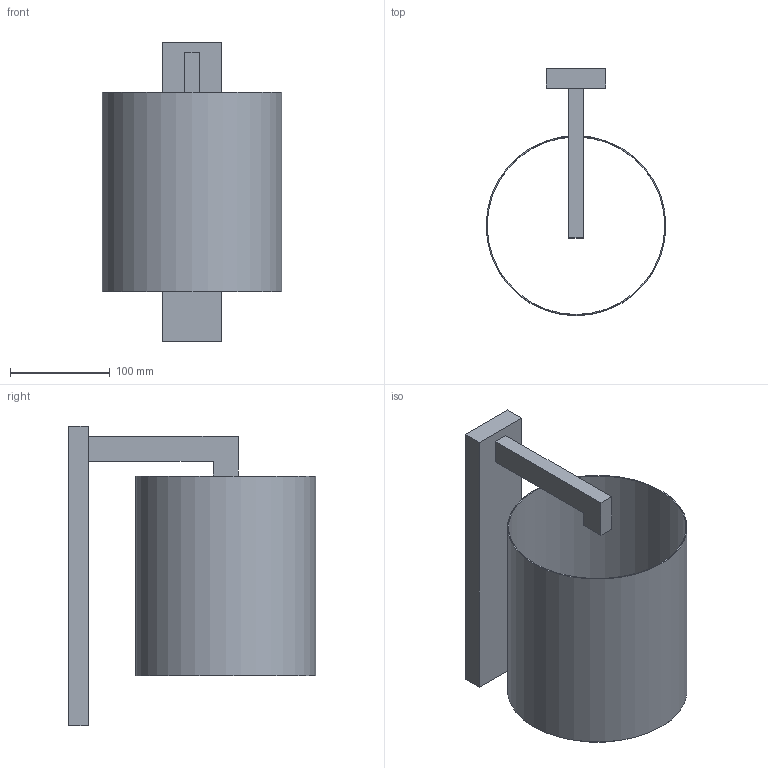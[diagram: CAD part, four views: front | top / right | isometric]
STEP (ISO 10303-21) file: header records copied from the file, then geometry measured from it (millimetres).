
FILE_DESCRIPTION( ( 'STEP AP203' ), '1' );
FILE_NAME( '//srvbf/BF Disegni/ASTRO/ASTRO-A Applique 3D.stp', '2020-10-16T08:57:01', ( ' ' ), ( ' ' ), 'XStep 1.0', ' ', ' ' );
FILE_SCHEMA( ( 'CONFIG_CONTROL_DESIGN) ( )' ) );
Length unit declared in the file: metre
Products named in the file (2): 1; 2
Bounding box: 180 x 247.5 x 300 mm (x, y, z)
Volume: 534344 mm3; surface area: 289662.7 mm2
Topology: 2 solids, 2 shells, 17 faces, 36 edges, 24 vertices
Faces by surface type: plane 15, cylinder 2
Full cylindrical faces by diameter (mm): 178 x1, 180 x1
Entity records: 536 total; most frequent: CARTESIAN_POINT 77, DIRECTION 76, ORIENTED_EDGE 68, EDGE_CURVE 34, LINE 30, VECTOR 30, VERTEX_POINT 24, AXIS2_PLACEMENT_3D 23
